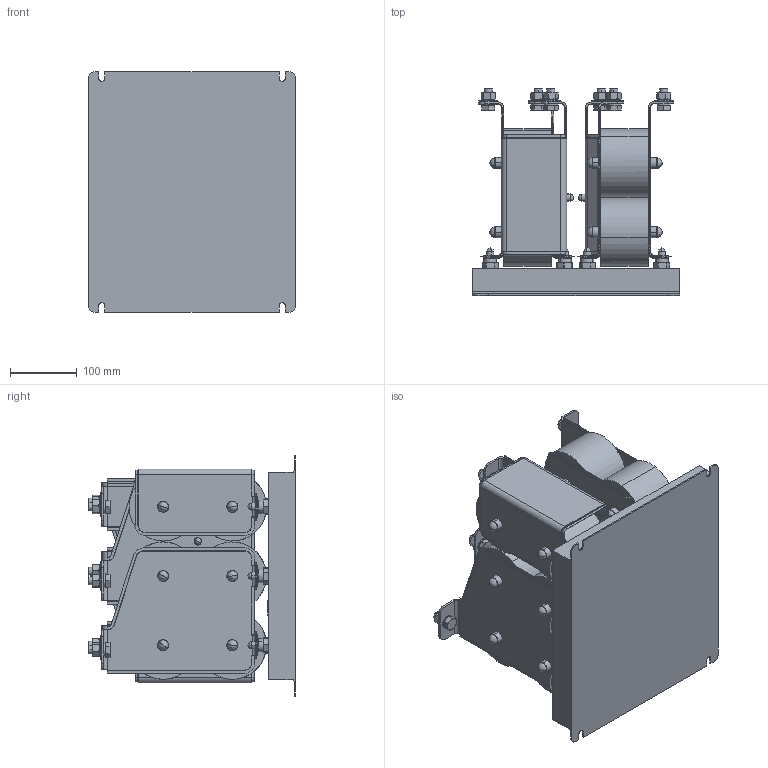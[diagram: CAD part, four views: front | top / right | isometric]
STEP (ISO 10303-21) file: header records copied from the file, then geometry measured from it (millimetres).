
FILE_DESCRIPTION (( 'STEP AP214' ), '1' );
FILE_NAME ('00Z2G24-AXX3.STEP', '2026-08-05T09:17:06', ( '' ), ( '' ), 'SwSTEP 2.0', 'SolidWorks 2025', '' );
FILE_SCHEMA (( 'AUTOMOTIVE_DESIGN' ));
Length unit declared in the file: millimetre
Products named in the file (3): 10014308_000; Kundenmodell^10085532_000; 00Z2G24-AXX3
Assembly tree (2 placements, depth 2):
  00Z2G24-AXX3
    10014308_000
    Kundenmodell^10085532_000
Bounding box: 310 x 309.4 x 360 mm (x, y, z)
Volume: 12248385.3 mm3; surface area: 1189776.1 mm2
Topology: 2 solids, 2 shells, 2878 faces, 7087 edges, 4239 vertices
Faces by surface type: cylinder 1265, plane 808, torus 508, cone 214, bspline 83
Entity records: 87129 total; most frequent: CARTESIAN_POINT 18174, DIRECTION 15511, ORIENTED_EDGE 14034, EDGE_CURVE 7017, AXIS2_PLACEMENT_3D 6136, VERTEX_POINT 4239, CIRCLE 3336, LINE 3239
